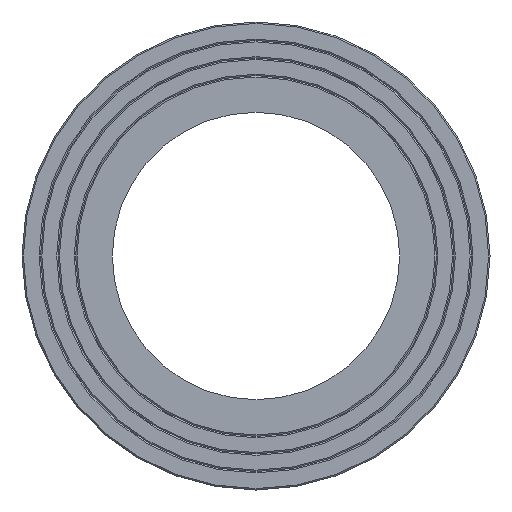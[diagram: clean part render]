
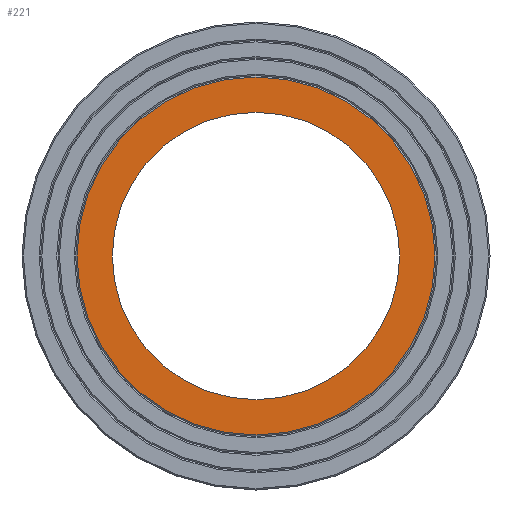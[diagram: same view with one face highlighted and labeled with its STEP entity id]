
A CAD part, left-side view. The second image highlights one B-rep face of the part: STEP entity #221.
In plain terms, the highlighted planar face has unit normal (-1, 0, 0).
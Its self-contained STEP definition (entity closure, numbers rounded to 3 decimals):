
#36=ORIENTED_EDGE('',*,*,#76,.F.);
#37=ORIENTED_EDGE('',*,*,#77,.T.);
#76=EDGE_CURVE('',#96,#96,#116,.T.);
#77=EDGE_CURVE('',#97,#97,#117,.T.);
#96=VERTEX_POINT('',#383);
#97=VERTEX_POINT('',#385);
#116=CIRCLE('',#257,155.3);
#117=CIRCLE('',#258,193.5);
#136=EDGE_LOOP('',(#36));
#137=EDGE_LOOP('',(#37));
#176=FACE_BOUND('',#136,.T.);
#177=FACE_BOUND('',#137,.T.);
#215=PLANE('',#256);
#221=ADVANCED_FACE('',(#176,#177),#215,.F.);
#256=AXIS2_PLACEMENT_3D('',#381,#301,#302);
#257=AXIS2_PLACEMENT_3D('',#382,#303,#304);
#258=AXIS2_PLACEMENT_3D('',#384,#305,#306);
#301=DIRECTION('',(1.,0.,0.));
#302=DIRECTION('',(0.,0.,-1.));
#303=DIRECTION('',(-1.,0.,0.));
#304=DIRECTION('',(0.,0.,1.));
#305=DIRECTION('',(-1.,0.,0.));
#306=DIRECTION('',(0.,0.,1.));
#381=CARTESIAN_POINT('',(0.,0.,253.));
#382=CARTESIAN_POINT('',(0.,0.,0.));
#383=CARTESIAN_POINT('',(0.,0.,155.3));
#384=CARTESIAN_POINT('',(0.,0.,0.));
#385=CARTESIAN_POINT('',(0.,0.,193.5));
